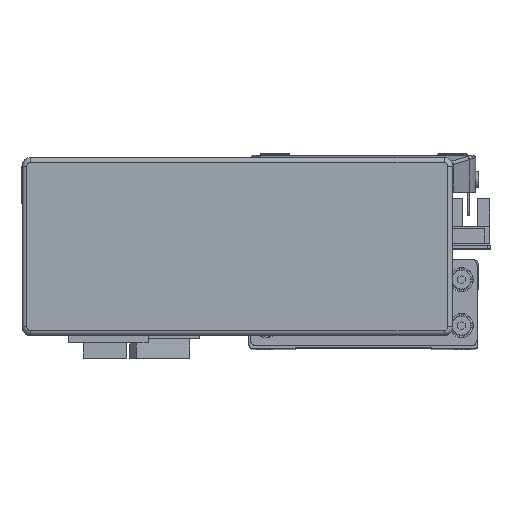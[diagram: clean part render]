
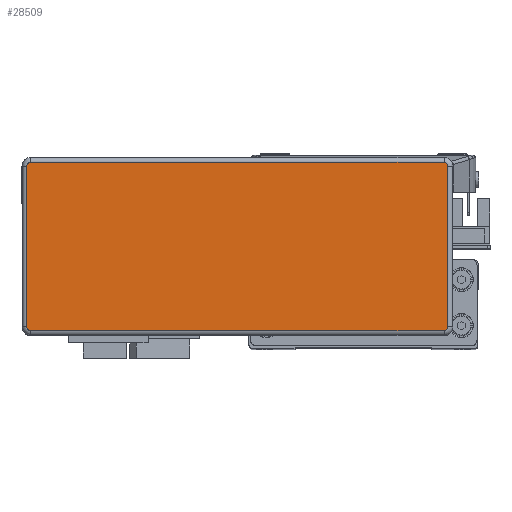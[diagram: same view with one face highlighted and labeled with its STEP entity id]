
A CAD part, top view. The second image highlights one B-rep face of the part: STEP entity #28509.
In plain terms, the highlighted planar face has unit normal (0, 0, 1) as drawn and (0, 0, -1) by its records, which use the part's own axes.
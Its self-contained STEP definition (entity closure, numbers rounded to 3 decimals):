
#1408 = EDGE_LOOP ( 'NONE', ( #6510, #7232, #7229, #7239, #7237, #6557, #7216, #7228 ) ) ;
#2286 = VERTEX_POINT ( 'NONE', #16197 ) ;
#2327 = VERTEX_POINT ( 'NONE', #16192 ) ;
#2341 = VERTEX_POINT ( 'NONE', #16280 ) ;
#2360 = VERTEX_POINT ( 'NONE', #16303 ) ;
#2361 = VERTEX_POINT ( 'NONE', #16268 ) ;
#2375 = VERTEX_POINT ( 'NONE', #16296 ) ;
#2402 = VERTEX_POINT ( 'NONE', #5603 ) ;
#2407 = VERTEX_POINT ( 'NONE', #5604 ) ;
#4006 = CARTESIAN_POINT ( 'NONE',  ( -73.295, -27.995, -32.2 ) ) ;
#4055 = DIRECTION ( 'NONE',  ( 0., 1., 0. ) ) ;
#4080 = CARTESIAN_POINT ( 'NONE',  ( -71.995, 27.995, -32.2 ) ) ;
#4097 = DIRECTION ( 'NONE',  ( 0., 0., -1. ) ) ;
#4098 = DIRECTION ( 'NONE',  ( 1., 0., 0. ) ) ;
#4152 = DIRECTION ( 'NONE',  ( 1., 0., 0. ) ) ;
#4174 = DIRECTION ( 'NONE',  ( 0., 0., -1. ) ) ;
#4185 = DIRECTION ( 'NONE',  ( -1., 0., 0. ) ) ;
#4216 = CARTESIAN_POINT ( 'NONE',  ( 71.995, -27.995, -32.2 ) ) ;
#4228 = CARTESIAN_POINT ( 'NONE',  ( 71.995, -29.295, -32.2 ) ) ;
#4235 = DIRECTION ( 'NONE',  ( 0., 0., -1. ) ) ;
#4250 = CARTESIAN_POINT ( 'NONE',  ( 71.995, 29.295, -32.2 ) ) ;
#4257 = DIRECTION ( 'NONE',  ( 1., 0., 0. ) ) ;
#4280 = DIRECTION ( 'NONE',  ( 1., 0., 0. ) ) ;
#4287 = CARTESIAN_POINT ( 'NONE',  ( 73.295, -27.995, -32.2 ) ) ;
#4298 = CARTESIAN_POINT ( 'NONE',  ( 71.995, 27.995, -32.2 ) ) ;
#4301 = DIRECTION ( 'NONE',  ( 0., -1., 0. ) ) ;
#4363 = CARTESIAN_POINT ( 'NONE',  ( -71.995, -27.995, -32.2 ) ) ;
#4381 = DIRECTION ( 'NONE',  ( 0., 0., -1. ) ) ;
#4385 = DIRECTION ( 'NONE',  ( 1., 0., 0. ) ) ;
#5603 = CARTESIAN_POINT ( 'NONE',  ( -73.295, 27.995, -32.2 ) ) ;
#5604 = CARTESIAN_POINT ( 'NONE',  ( -71.995, -29.295, -32.2 ) ) ;
#6510 = ORIENTED_EDGE ( 'NONE', *, *, #14791, .T. ) ;
#6557 = ORIENTED_EDGE ( 'NONE', *, *, #14737, .T. ) ;
#7216 = ORIENTED_EDGE ( 'NONE', *, *, #14818, .T. ) ;
#7228 = ORIENTED_EDGE ( 'NONE', *, *, #14812, .T. ) ;
#7229 = ORIENTED_EDGE ( 'NONE', *, *, #14789, .T. ) ;
#7232 = ORIENTED_EDGE ( 'NONE', *, *, #14777, .T. ) ;
#7237 = ORIENTED_EDGE ( 'NONE', *, *, #14716, .T. ) ;
#7239 = ORIENTED_EDGE ( 'NONE', *, *, #14841, .T. ) ;
#9566 = AXIS2_PLACEMENT_3D ( 'NONE', #4080, #4097, #4098 ) ;
#9627 = AXIS2_PLACEMENT_3D ( 'NONE', #4216, #4174, #4152 ) ;
#9655 = AXIS2_PLACEMENT_3D ( 'NONE', #4363, #4381, #4385 ) ;
#9690 = AXIS2_PLACEMENT_3D ( 'NONE', #4298, #4235, #4280 ) ;
#11538 = LINE ( 'NONE', #4006, #11544 ) ;
#11544 = VECTOR ( 'NONE', #4055, 1000. ) ;
#11549 = CIRCLE ( 'NONE', #9566, 1.3 ) ;
#11565 = CIRCLE ( 'NONE', #9627, 1.3 ) ;
#11569 = CIRCLE ( 'NONE', #9690, 1.3 ) ;
#11572 = LINE ( 'NONE', #4228, #11579 ) ;
#11574 = VECTOR ( 'NONE', #4257, 1000. ) ;
#11579 = VECTOR ( 'NONE', #4185, 1000. ) ;
#11588 = LINE ( 'NONE', #4287, #11589 ) ;
#11589 = VECTOR ( 'NONE', #4301, 1000. ) ;
#11603 = LINE ( 'NONE', #4250, #11574 ) ;
#11626 = CIRCLE ( 'NONE', #9655, 1.3 ) ;
#14716 = EDGE_CURVE ( 'NONE', #2286, #2402, #11538, .T. ) ;
#14737 = EDGE_CURVE ( 'NONE', #2402, #2361, #11549, .T. ) ;
#14777 = EDGE_CURVE ( 'NONE', #2360, #2341, #11565, .T. ) ;
#14789 = EDGE_CURVE ( 'NONE', #2341, #2407, #11572, .T. ) ;
#14791 = EDGE_CURVE ( 'NONE', #2375, #2360, #11588, .T. ) ;
#14812 = EDGE_CURVE ( 'NONE', #2327, #2375, #11569, .T. ) ;
#14818 = EDGE_CURVE ( 'NONE', #2361, #2327, #11603, .T. ) ;
#14841 = EDGE_CURVE ( 'NONE', #2407, #2286, #11626, .T. ) ;
#16192 = CARTESIAN_POINT ( 'NONE',  ( 71.995, 29.295, -32.2 ) ) ;
#16197 = CARTESIAN_POINT ( 'NONE',  ( -73.295, -27.995, -32.2 ) ) ;
#16268 = CARTESIAN_POINT ( 'NONE',  ( -71.995, 29.295, -32.2 ) ) ;
#16280 = CARTESIAN_POINT ( 'NONE',  ( 71.995, -29.295, -32.2 ) ) ;
#16296 = CARTESIAN_POINT ( 'NONE',  ( 73.295, 27.995, -32.2 ) ) ;
#16303 = CARTESIAN_POINT ( 'NONE',  ( 73.295, -27.995, -32.2 ) ) ;
#28509 = ADVANCED_FACE ( 'NONE', ( #39657 ), #41063, .F. ) ;
#35346 = AXIS2_PLACEMENT_3D ( 'NONE', #41041, #41047, #41059 ) ;
#39657 = FACE_OUTER_BOUND ( 'NONE', #1408, .T. ) ;
#41041 = CARTESIAN_POINT ( 'NONE',  ( 71.995, -27.995, -32.2 ) ) ;
#41047 = DIRECTION ( 'NONE',  ( 0., 0., 1. ) ) ;
#41059 = DIRECTION ( 'NONE',  ( 1., 0., 0. ) ) ;
#41063 = PLANE ( 'NONE',  #35346 ) ;
